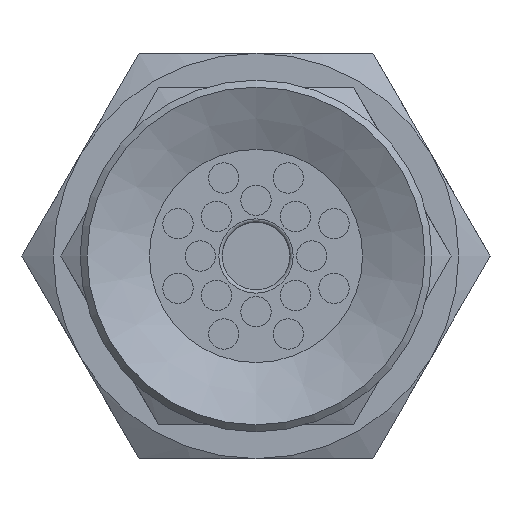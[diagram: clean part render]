
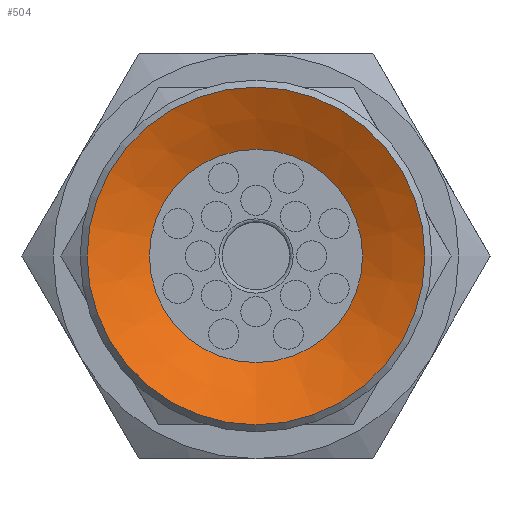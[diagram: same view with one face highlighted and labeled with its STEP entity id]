
A CAD part, front view. The second image highlights one B-rep face of the part: STEP entity #504.
In plain terms, the highlighted conical face has half-angle 64 degrees and reference radius 5 mm.
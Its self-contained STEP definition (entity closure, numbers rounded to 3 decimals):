
#504=ADVANCED_FACE('',(#803,#804),#805,.F.);
#803=FACE_BOUND('',#1168,.T.);
#804=FACE_OUTER_BOUND('',#1169,.T.);
#805=CONICAL_SURFACE('',#1170,5.0,1.117);
#1168=EDGE_LOOP('',(#1938));
#1169=EDGE_LOOP('',(#1939));
#1170=AXIS2_PLACEMENT_3D('',#1940,#1941,#1942);
#1938=ORIENTED_EDGE('',*,*,#2284,.T.);
#1939=ORIENTED_EDGE('',*,*,#2285,.F.);
#1940=CARTESIAN_POINT('',(0.0,0.,0.));
#1941=DIRECTION('',(0.0,0.,-1.0));
#1942=DIRECTION('',(0.0,1.0,0.));
#2284=EDGE_CURVE('',#2629,#2629,#2630,.T.);
#2285=EDGE_CURVE('',#2631,#2631,#2632,.T.);
#2629=VERTEX_POINT('',#3385);
#2630=CIRCLE('',#3386,3.155);
#2631=VERTEX_POINT('',#3387);
#2632=CIRCLE('',#3388,5.0);
#3385=CARTESIAN_POINT('',(0.0,-3.155,0.9));
#3386=AXIS2_PLACEMENT_3D('',#3747,#3748,#3749);
#3387=CARTESIAN_POINT('',(0.0,-5.0,0.));
#3388=AXIS2_PLACEMENT_3D('',#3750,#3751,#3752);
#3747=CARTESIAN_POINT('',(0.0,0.,0.9));
#3748=DIRECTION('',(0.0,0.,1.0));
#3749=DIRECTION('',(0.0,-1.0,0.));
#3750=CARTESIAN_POINT('',(0.0,0.,0.));
#3751=DIRECTION('',(0.0,0.,1.0));
#3752=DIRECTION('',(0.0,-1.0,0.));
